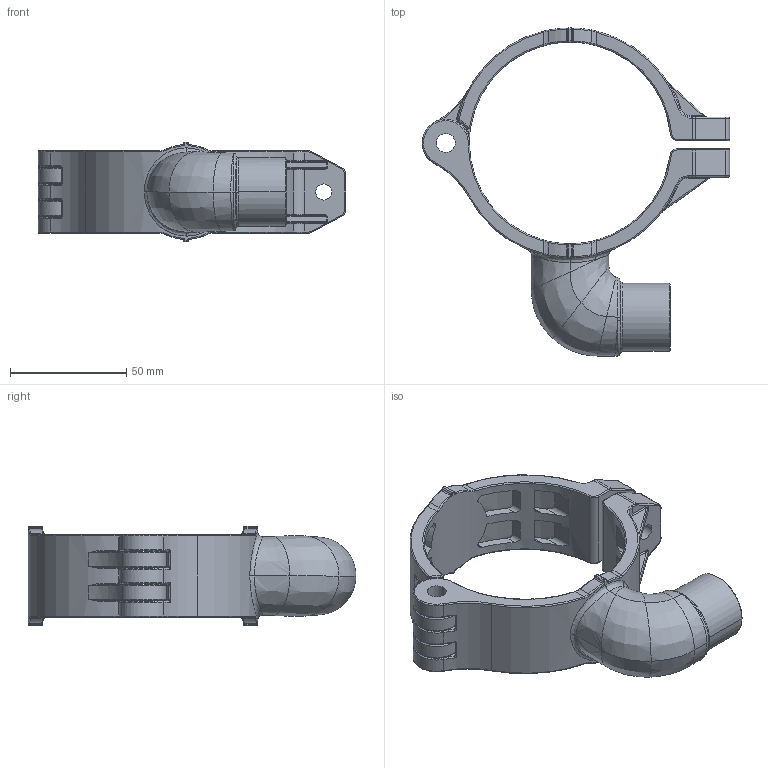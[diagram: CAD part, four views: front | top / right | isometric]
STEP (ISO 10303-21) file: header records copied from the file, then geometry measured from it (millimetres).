
FILE_DESCRIPTION((''),'2;1');
FILE_NAME('AU15701100_ASM_4_ASM','2017-05-15T',('Administrator'),(''),'PRO/ENGINEER BY PARAMETRIC TECHNOLOGY CORPORATION, 2009360','PRO/ENGINEER BY PARAMETRIC TECHNOLOGY CORPORATION, 2009360','');
FILE_SCHEMA(('AUTOMOTIVE_DESIGN_CC2 { 1 2 10303 214 -1 1 5 2 }'));
Length unit declared in the file: millimetre
Products named in the file (3): 2017_7011_00_00_1; 2016_7210_00_01_1; AU15701100_ASM_4_ASM
Assembly tree (2 placements, depth 2):
  AU15701100_ASM_4_ASM
    2017_7011_00_00_1
    2016_7210_00_01_1
Bounding box: 132.14 x 140.96 x 42.81 mm (x, y, z)
Volume: 106484.4 mm3; surface area: 45880.9 mm2
Topology: 2 solids, 2 shells, 618 faces, 1547 edges, 936 vertices
Faces by surface type: cylinder 243, bspline 132, torus 116, plane 105, sphere 16, cone 6
Entity records: 31679 total; most frequent: CARTESIAN_POINT 13247, ORIENTED_EDGE 3062, DIRECTION 2681, PRESENTATION_STYLE_ASSIGNMENT 1533, STYLED_ITEM 1533, CURVE_STYLE 1531, EDGE_CURVE 1531, AXIS2_PLACEMENT_3D 1119
